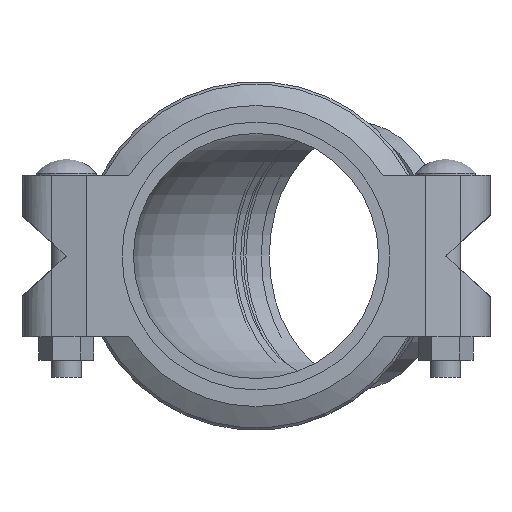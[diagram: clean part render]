
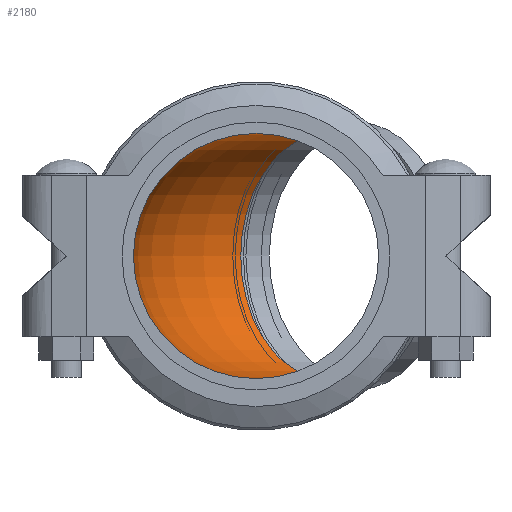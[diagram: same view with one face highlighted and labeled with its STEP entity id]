
A CAD part, left-side view. The second image highlights one B-rep face of the part: STEP entity #2180.
In plain terms, the highlighted toroidal (fillet/blend) face has major radius 153.303 mm and minor radius 77.025 mm.
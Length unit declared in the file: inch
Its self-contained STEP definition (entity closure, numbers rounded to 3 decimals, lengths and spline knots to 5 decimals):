
#70=TOROIDAL_SURFACE('',#2410,6.03553,3.0325);
#471=FACE_OUTER_BOUND('',#592,.T.);
#592=EDGE_LOOP('',(#1386,#1387,#1388,#1389,#1390,#1391));
#735=CIRCLE('',#2411,3.0325);
#736=CIRCLE('',#2412,3.0325);
#737=CIRCLE('',#2413,3.00303);
#738=CIRCLE('',#2414,3.0325);
#739=CIRCLE('',#2415,3.0325);
#851=VERTEX_POINT('',#3360);
#852=VERTEX_POINT('',#3361);
#853=VERTEX_POINT('',#3364);
#854=VERTEX_POINT('',#3366);
#1063=EDGE_CURVE('',#851,#852,#735,.T.);
#1064=EDGE_CURVE('',#852,#851,#736,.T.);
#1065=EDGE_CURVE('',#851,#853,#737,.T.);
#1066=EDGE_CURVE('',#853,#854,#738,.T.);
#1067=EDGE_CURVE('',#854,#853,#739,.T.);
#1386=ORIENTED_EDGE('',*,*,#1063,.T.);
#1387=ORIENTED_EDGE('',*,*,#1064,.T.);
#1388=ORIENTED_EDGE('',*,*,#1065,.T.);
#1389=ORIENTED_EDGE('',*,*,#1066,.T.);
#1390=ORIENTED_EDGE('',*,*,#1067,.T.);
#1391=ORIENTED_EDGE('',*,*,#1065,.F.);
#2180=ADVANCED_FACE('',(#471),#70,.F.);
#2410=AXIS2_PLACEMENT_3D('',#3359,#2690,#2691);
#2411=AXIS2_PLACEMENT_3D('',#3362,#2692,#2693);
#2412=AXIS2_PLACEMENT_3D('',#3363,#2694,#2695);
#2413=AXIS2_PLACEMENT_3D('',#3365,#2696,#2697);
#2414=AXIS2_PLACEMENT_3D('',#3367,#2698,#2699);
#2415=AXIS2_PLACEMENT_3D('',#3368,#2700,#2701);
#2690=DIRECTION('center_axis',(0.,0.,-1.));
#2691=DIRECTION('ref_axis',(-1.,0.,0.));
#2692=DIRECTION('center_axis',(0.,-1.,0.));
#2693=DIRECTION('ref_axis',(1.,0.,0.));
#2694=DIRECTION('center_axis',(0.,-1.,0.));
#2695=DIRECTION('ref_axis',(1.,0.,0.));
#2696=DIRECTION('center_axis',(0.,0.,-1.));
#2697=DIRECTION('ref_axis',(-1.,0.,0.));
#2698=DIRECTION('center_axis',(0.707,0.707,0.));
#2699=DIRECTION('ref_axis',(0.707,-0.707,0.));
#2700=DIRECTION('center_axis',(0.707,0.707,0.));
#2701=DIRECTION('ref_axis',(0.707,-0.707,0.));
#3359=CARTESIAN_POINT('Origin',(6.03553,1.,0.));
#3360=CARTESIAN_POINT('',(3.0325,1.,0.));
#3361=CARTESIAN_POINT('',(-3.0325,1.,0.));
#3362=CARTESIAN_POINT('Origin',(0.,1.,0.));
#3363=CARTESIAN_POINT('Origin',(0.,1.,0.));
#3364=CARTESIAN_POINT('',(3.91207,3.12347,0.));
#3365=CARTESIAN_POINT('Origin',(6.03553,1.,0.));
#3366=CARTESIAN_POINT('',(-0.37653,7.41207,0.));
#3367=CARTESIAN_POINT('Origin',(1.76777,5.26777,0.));
#3368=CARTESIAN_POINT('Origin',(1.76777,5.26777,0.));
